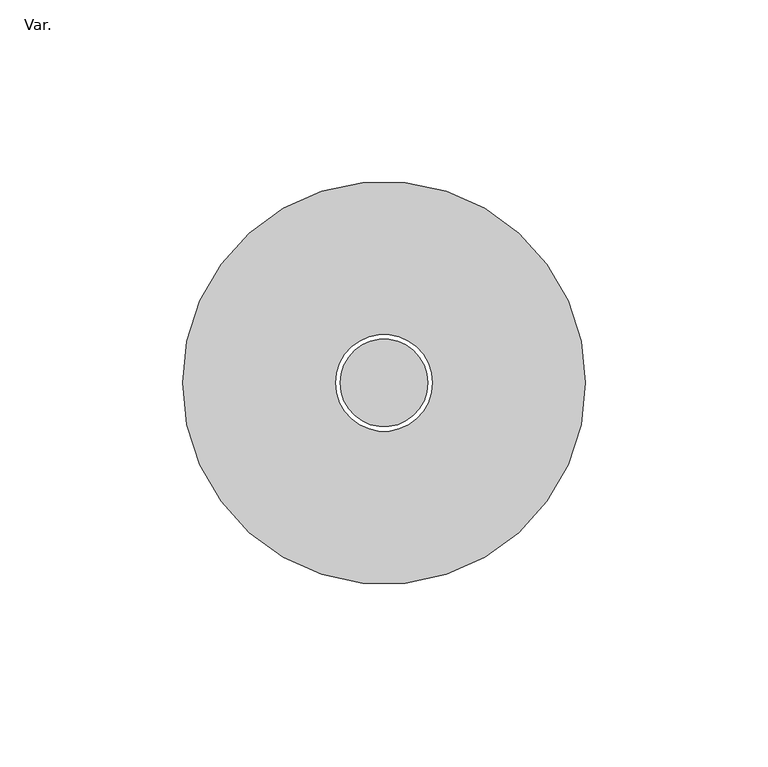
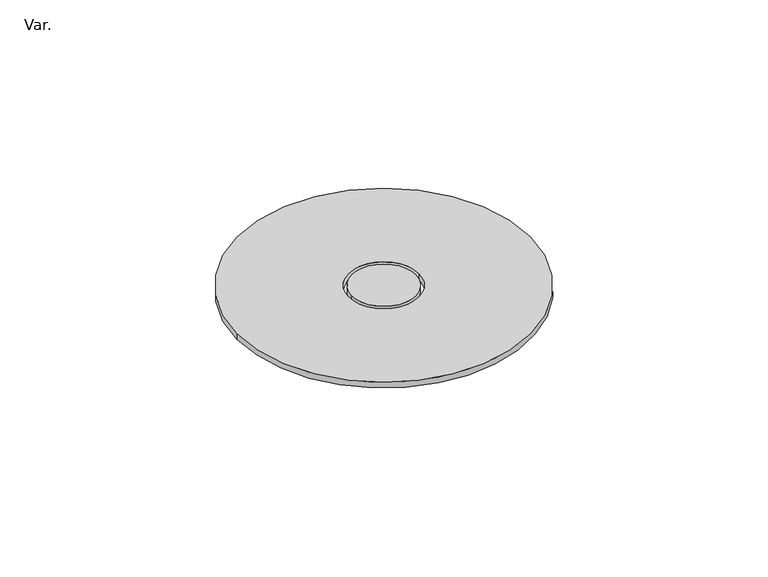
"""IFC4 building model written with IfcOpenShell, lengths in millimetres: cable carrier fitting geometry, AmancoWavin_ConduitFittings_ZnoUsarTapaOctogonal : Var.."""

from ifc_helpers import new_model, si_unit, point, frame, origin, origin_2d, place, context, project, spatial, circle_curve, trimmed, segment, composite_curve, outline, extrude, source, transform, mapped, element, save


def var_af42244a(model_context):
    return source(origin(), model_context, "Body", "SweptSolid", [
        extrude(outline(composite_curve([segment(trimmed(circle_curve(origin_2d(), 12.0), [point((-12.0, 0.0))], [point((12.0, 0.0))], False, "CARTESIAN"), True, "CONTINUOUS"), segment(trimmed(circle_curve(origin_2d(), 12.0), [point((12.0, 0.0))], [point((-12.0, 0.0))], False, "CARTESIAN"), True, "CONTINUOUS")], self_intersect=False)), frame((0.0, 0.0, -2.3), z_axis=(0.0, 0.0, 1.0), x_axis=(1.0, 0.0, 0.0)), (0.0, 0.0, 1.0), 2.3),
        extrude(outline(composite_curve([segment(trimmed(circle_curve(origin_2d(), 55.175), [point((-55.175, 0.0))], [point((55.175, 0.0))], False, "CARTESIAN"), True, "CONTINUOUS"), segment(trimmed(circle_curve(origin_2d(), 55.175), [point((55.175, 0.0))], [point((-55.175, 0.0))], False, "CARTESIAN"), True, "CONTINUOUS")], self_intersect=False), holes=[composite_curve([segment(trimmed(circle_curve(origin_2d(), 13.25), [point((-13.25, 0.0))], [point((13.25, 0.0))], True, "CARTESIAN"), True, "CONTINUOUS"), segment(trimmed(circle_curve(origin_2d(), 13.25), [point((13.25, 0.0))], [point((-13.25, 0.0))], True, "CARTESIAN"), True, "CONTINUOUS")], self_intersect=False)]), frame((0.0, 0.0, -2.3), z_axis=(0.0, 0.0, 1.0), x_axis=(1.0, 0.0, 0.0)), (0.0, 0.0, 1.0), 2.3),
    ])


if __name__ == "__main__":
    model = new_model("IFC4")
    model_context = context("Model", 3, world=origin())
    ifc_project = project(units=[si_unit("LENGTHUNIT", "METRE", prefix="MILLI")], contexts=[model_context])
    site = spatial("IfcSite", under=ifc_project)
    building = spatial("IfcBuilding", under=site)
    placement = place(None, origin())
    var_shape = var_af42244a(model_context)
    element("IfcCableCarrierFitting", 1, ObjectType="AmancoWavin_ConduitFittings_ZnoUsarTapaOctogonal : Var.", at=placement, inside=building, context=model_context, shape_type="MappedRepresentation", body=[
        mapped(var_shape, transform((0.0, 0.0, 0.0), x_axis=(1.0, 0.0, 0.0), y_axis=(0.0, 1.0, 0.0), z_axis=(0.0, 0.0, 1.0))),
    ])
    save(model, "model.ifc")
